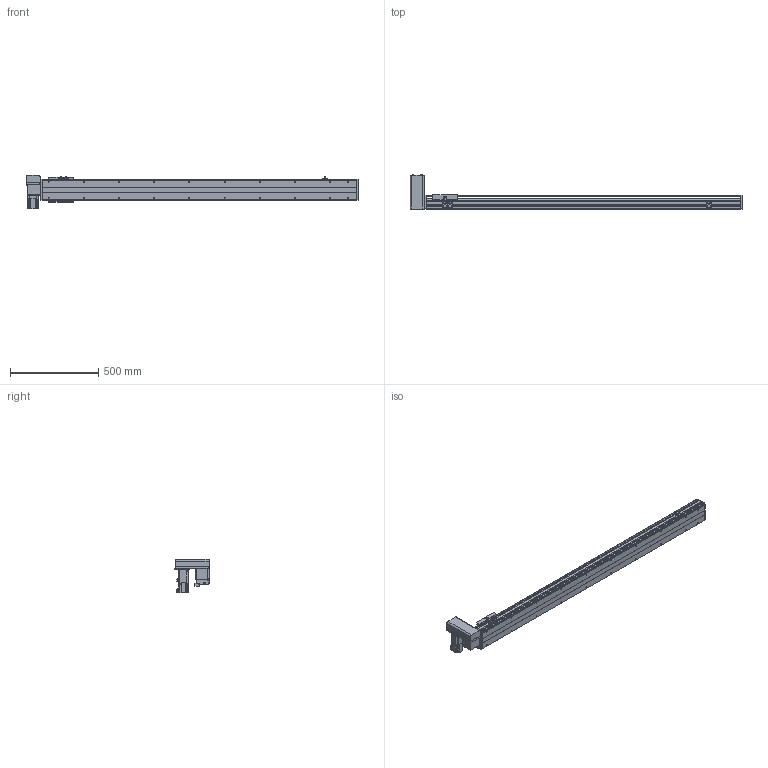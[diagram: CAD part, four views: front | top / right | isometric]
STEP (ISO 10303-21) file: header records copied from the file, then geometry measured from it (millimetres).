
FILE_DESCRIPTION( ( 'STEP AP214' ), '1' );
FILE_NAME( 'x:/temp/worker_27/temp/exporttempdir_6708_236_YA3os/format_0/PBS120-P40-S1500-RU-T40-C1-N(0).stp', '2022-06-06T00:50:07', ( 'License CC BY-ND 4.0' ), ( 'CADENAS' ), ' ', 'PARTsolutions', ' ' );
FILE_SCHEMA( ( 'AUTOMOTIVE_DESIGN { 1 0 10303 214 1 1 1 1 }' ) );
Length unit declared in the file: millimetre
Products named in the file (7): PBS120-P40-S1500-RU-T40-C1-N(0); _PBS120-S1500()_body; _PBS120T-RU_motors; _T40-p1; _PBS120_sliser; _PBS120_plant; _PBS120_sensor
Assembly tree (8 placements, depth 2):
  PBS120-P40-S1500-RU-T40-C1-N(0)
    _PBS120-S1500()_body
    _PBS120T-RU_motors
    _T40-p1
    _PBS120_sliser
    _PBS120_plant
    _PBS120_sensor  x3
Bounding box: 1886 x 198 x 189.7 mm (x, y, z)
Volume: 7588666.2 mm3; surface area: 1522902.4 mm2
Topology: 8 solids, 8 shells, 840 faces, 2176 edges, 1399 vertices
Faces by surface type: plane 553, cylinder 233, cone 52, torus 2
Full cylindrical faces by diameter (mm): 2.459 x6, 3.242 x4, 4 x2, 4.134 x4, 4.5 x10, 4.917 x24, 5.5 x11, 6 x2, 6.6 x1, 7 x2, 8.5 x4, 9 x4, 12 x1, 14 x1, 30 x2, 40 x1, 50 x2
Entity records: 27660 total; most frequent: DIRECTION 3788, CARTESIAN_POINT 3713, ORIENTED_EDGE 3526, EDGE_CURVE 1763, AXIS2_PLACEMENT_3D 1280, LINE 1228, VECTOR 1228, VERTEX_POINT 1205
